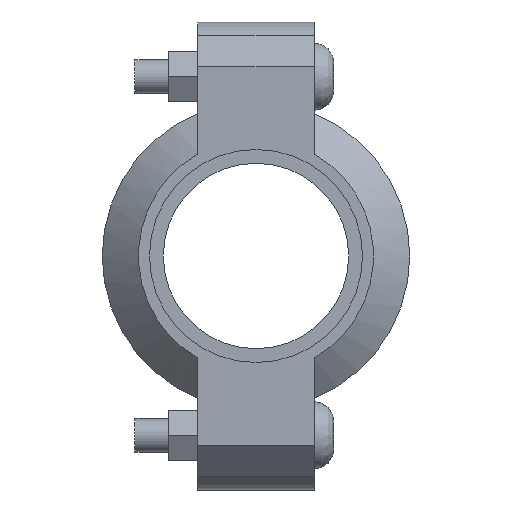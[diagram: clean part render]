
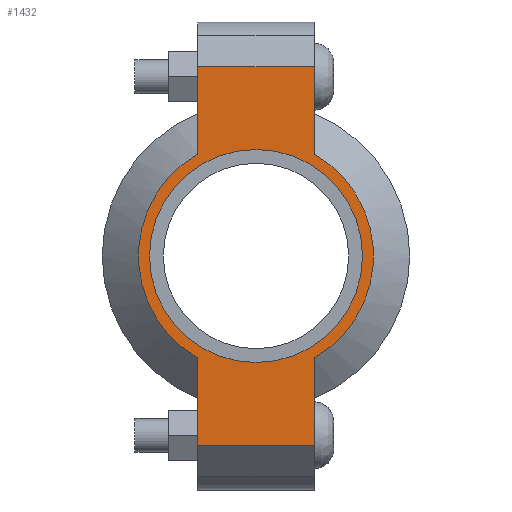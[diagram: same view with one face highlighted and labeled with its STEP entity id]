
A CAD part, left-side view. The second image highlights one B-rep face of the part: STEP entity #1432.
In plain terms, the highlighted planar face has unit normal (-1, 0, 0) as drawn and (0, 0, 1) by its records, which use the part's own axes.
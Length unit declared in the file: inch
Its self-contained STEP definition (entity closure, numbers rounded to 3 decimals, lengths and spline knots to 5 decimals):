
#112=LINE('',#2483,#203);
#120=LINE('',#2519,#211);
#127=LINE('',#2540,#218);
#136=LINE('',#2572,#227);
#137=LINE('',#2576,#228);
#138=LINE('',#2578,#229);
#203=VECTOR('',#2017,0.3937);
#211=VECTOR('',#2033,0.3937);
#218=VECTOR('',#2052,0.3937);
#227=VECTOR('',#2077,0.3937);
#228=VECTOR('',#2082,0.3937);
#229=VECTOR('',#2083,0.3937);
#281=FACE_BOUND('',#441,.T.);
#345=FACE_OUTER_BOUND('',#440,.T.);
#440=EDGE_LOOP('',(#1167,#1168,#1169,#1170,#1171,#1172,#1173,#1174));
#441=EDGE_LOOP('',(#1175));
#538=CIRCLE('',#1693,1.31);
#539=CIRCLE('',#1694,1.31);
#540=CIRCLE('',#1695,1.1875);
#643=VERTEX_POINT('',#2480);
#644=VERTEX_POINT('',#2482);
#655=VERTEX_POINT('',#2514);
#656=VERTEX_POINT('',#2518);
#663=VERTEX_POINT('',#2537);
#664=VERTEX_POINT('',#2539);
#674=VERTEX_POINT('',#2575);
#675=VERTEX_POINT('',#2577);
#676=VERTEX_POINT('',#2580);
#807=EDGE_CURVE('',#644,#643,#112,.T.);
#821=EDGE_CURVE('',#656,#655,#120,.T.);
#831=EDGE_CURVE('',#664,#663,#127,.T.);
#846=EDGE_CURVE('',#656,#643,#136,.T.);
#847=EDGE_CURVE('',#655,#664,#538,.T.);
#848=EDGE_CURVE('',#674,#663,#137,.T.);
#849=EDGE_CURVE('',#674,#675,#138,.T.);
#850=EDGE_CURVE('',#675,#644,#539,.T.);
#851=EDGE_CURVE('',#676,#676,#540,.T.);
#1167=ORIENTED_EDGE('',*,*,#846,.F.);
#1168=ORIENTED_EDGE('',*,*,#821,.T.);
#1169=ORIENTED_EDGE('',*,*,#847,.T.);
#1170=ORIENTED_EDGE('',*,*,#831,.T.);
#1171=ORIENTED_EDGE('',*,*,#848,.F.);
#1172=ORIENTED_EDGE('',*,*,#849,.T.);
#1173=ORIENTED_EDGE('',*,*,#850,.T.);
#1174=ORIENTED_EDGE('',*,*,#807,.T.);
#1175=ORIENTED_EDGE('',*,*,#851,.T.);
#1286=PLANE('',#1692);
#1432=ADVANCED_FACE('',(#345,#281),#1286,.T.);
#1692=AXIS2_PLACEMENT_3D('',#2573,#2078,#2079);
#1693=AXIS2_PLACEMENT_3D('',#2574,#2080,#2081);
#1694=AXIS2_PLACEMENT_3D('',#2579,#2084,#2085);
#1695=AXIS2_PLACEMENT_3D('',#2581,#2086,#2087);
#2017=DIRECTION('',(1.,0.,0.));
#2033=DIRECTION('',(-1.,0.,0.));
#2052=DIRECTION('',(-1.,0.,0.));
#2077=DIRECTION('',(0.,-1.,0.));
#2078=DIRECTION('center_axis',(0.,0.,1.));
#2079=DIRECTION('ref_axis',(-1.,0.,0.));
#2080=DIRECTION('center_axis',(0.,0.,1.));
#2081=DIRECTION('ref_axis',(1.,0.,0.));
#2082=DIRECTION('',(0.,1.,0.));
#2083=DIRECTION('',(1.,0.,0.));
#2084=DIRECTION('center_axis',(0.,0.,1.));
#2085=DIRECTION('ref_axis',(1.,0.,0.));
#2086=DIRECTION('center_axis',(0.,0.,-1.));
#2087=DIRECTION('ref_axis',(1.,0.,0.));
#2480=CARTESIAN_POINT('',(2.11,-0.65,0.94));
#2482=CARTESIAN_POINT('',(1.13737,-0.65,0.94));
#2483=CARTESIAN_POINT('',(2.61,-0.65,0.94));
#2514=CARTESIAN_POINT('',(1.13737,0.65,0.94));
#2518=CARTESIAN_POINT('',(2.11,0.65,0.94));
#2519=CARTESIAN_POINT('',(-2.61,0.65,0.94));
#2537=CARTESIAN_POINT('',(-2.11,0.65,0.94));
#2539=CARTESIAN_POINT('',(-1.13737,0.65,0.94));
#2540=CARTESIAN_POINT('',(-2.61,0.65,0.94));
#2572=CARTESIAN_POINT('',(2.11,-0.325,0.94));
#2573=CARTESIAN_POINT('Origin',(0.,0.,
0.94));
#2574=CARTESIAN_POINT('Origin',(0.,0.,0.94));
#2575=CARTESIAN_POINT('',(-2.11,-0.65,0.94));
#2576=CARTESIAN_POINT('',(-2.11,0.325,0.94));
#2577=CARTESIAN_POINT('',(-1.13737,-0.65,0.94));
#2578=CARTESIAN_POINT('',(2.61,-0.65,0.94));
#2579=CARTESIAN_POINT('Origin',(0.,0.,0.94));
#2580=CARTESIAN_POINT('',(-1.1875,0.,0.94));
#2581=CARTESIAN_POINT('Origin',(0.,0.,0.94));
